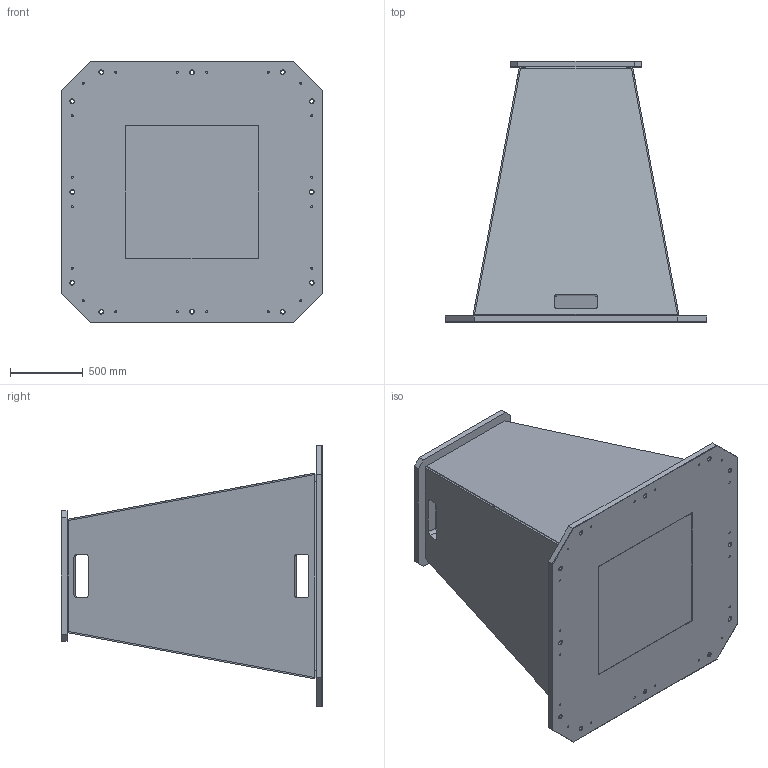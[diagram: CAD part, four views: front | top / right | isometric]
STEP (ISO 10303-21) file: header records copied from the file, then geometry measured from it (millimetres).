
FILE_DESCRIPTION (( 'STEP AP214' ), '1' );
FILE_NAME ('Robotersockel_1800mm_145821~b.STEP', '2016-07-11T10:51:40', ( '-' ), ( 'Yaskawa Europe GmbH' ), 'SwSTEP 2.0', 'SolidWorks 2016', '' );
FILE_SCHEMA (( 'AUTOMOTIVE_DESIGN' ));
Length unit declared in the file: millimetre
Products named in the file (1): Robotersockel_1800mm_145821~b
Bounding box: 1800 x 1800 x 1800 mm (x, y, z)
Volume: 621194588.7 mm3; surface area: 31275052.8 mm2
Topology: 8 solids, 8 shells, 312 faces, 852 edges, 538 vertices
Faces by surface type: cylinder 180, plane 96, cone 36
Entity records: 11277 total; most frequent: DIRECTION 1802, CARTESIAN_POINT 1667, ORIENTED_EDGE 1632, EDGE_CURVE 816, AXIS2_PLACEMENT_3D 673, VERTEX_POINT 538, EDGE_LOOP 468, VECTOR 456
